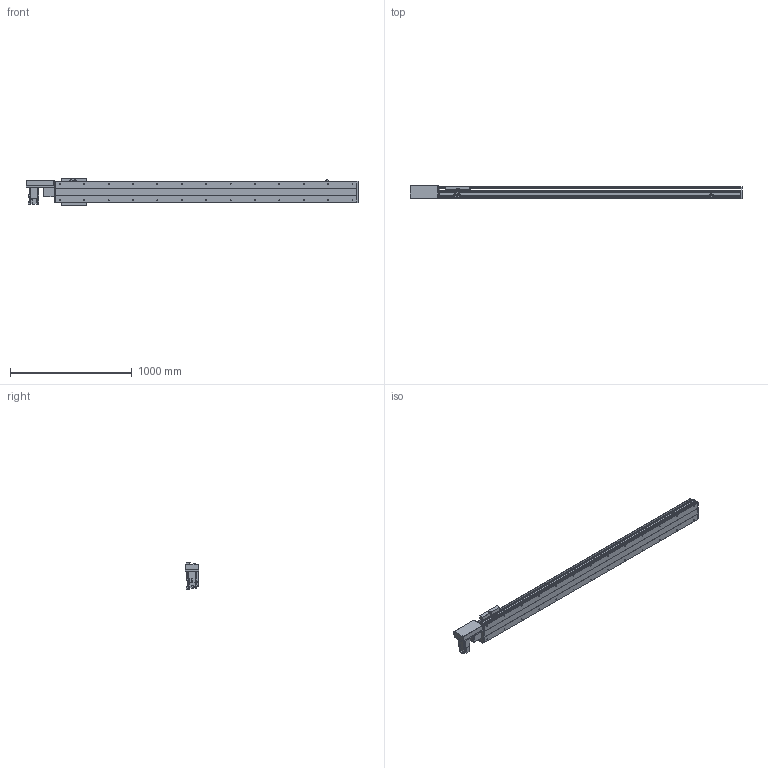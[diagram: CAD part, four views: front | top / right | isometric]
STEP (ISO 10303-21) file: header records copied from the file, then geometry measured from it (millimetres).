
FILE_DESCRIPTION(/* description */ ('STEP AP214'),/* implementation_level */ '2;1');
FILE_NAME(/* name */ 'PBS200-P40-S2100-R-T75-C1-N(0)',/* time_stamp */ '2022-06-11T08:10:03+02:00',/* author */ ('License CC BY-ND 4.0'),/* organization */ ('CADENAS'),/* preprocessor_version */ 'ST-DEVELOPER v18.102',/* originating_system */ 'PARTsolutions',/* authorisation */ ' ');
FILE_SCHEMA (('AUTOMOTIVE_DESIGN {1 0 10303 214 3 1 1}'));
Length unit declared in the file: millimetre
Products named in the file (7): PBS200-P40-S2100-R-T75-C1-N(0); PBS200_sensor; PBS200_plant; PBS200_sliser; T75-p1; PBS200T-R_motors; PBS200-S2100()_body
Assembly tree (8 placements, depth 2):
  PBS200-P40-S2100-R-T75-C1-N(0)
    PBS200_sensor  x3
    PBS200_plant
    PBS200_sliser
    T75-p1
    PBS200T-R_motors
    PBS200-S2100()_body
Bounding box: 2722 x 109 x 221 mm (x, y, z)
Volume: 18106539.4 mm3; surface area: 2902310.1 mm2
Topology: 8 solids, 8 shells, 950 faces, 2424 edges, 1578 vertices
Faces by surface type: plane 584, cylinder 308, cone 58
Full cylindrical faces by diameter (mm): 2.459 x6, 3.242 x4, 4.5 x6, 4.917 x4, 5 x6, 6 x7, 6.6 x8, 6.647 x30, 8 x6, 10 x4, 12 x8, 38 x2, 40 x1, 70 x1
Entity records: 25181 total; most frequent: DIRECTION 4447, CARTESIAN_POINT 4282, ORIENTED_EDGE 4042, EDGE_CURVE 2021, AXIS2_PLACEMENT_3D 1567, VERTEX_POINT 1402, LINE 1313, VECTOR 1313
